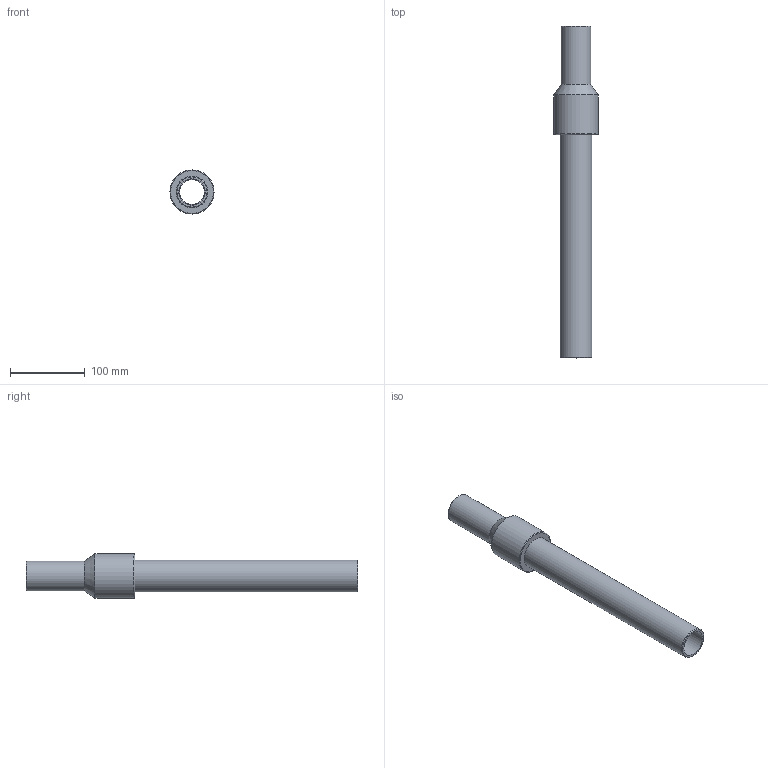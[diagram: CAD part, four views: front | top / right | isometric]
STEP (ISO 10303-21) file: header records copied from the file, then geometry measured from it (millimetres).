
FILE_DESCRIPTION(/* description */ ('Unknown'),/* implementation_level */ '2;1');
FILE_NAME(/* name */ 'RTSNP040C',/* time_stamp */ '2022-04-26T17:08:20+02:00',/* author */ ('Unknown'),/* organization */ ('Unknown'),/* preprocessor_version */ 'ST-DEVELOPER v18.1',/* originating_system */ 'Solid Edge',/* authorisation */ 'Unknown');
FILE_SCHEMA (('AUTOMOTIVE_DESIGN {1 0 10303 214 3 1 1}'));
Length unit declared in the file: millimetre
Products named in the file (3): RTSNP040C; Parte PE_; Partea ACCIAIO
Assembly tree (2 placements, depth 2):
  RTSNP040C
    Parte PE_
    Partea ACCIAIO
Bounding box: 59 x 443 x 59 mm (x, y, z)
Volume: 270955.9 mm3; surface area: 126621.2 mm2
Topology: 2 solids, 2 shells, 15 faces, 27 edges, 17 vertices
Faces by surface type: cylinder 6, plane 5, cone 2, torus 2
Full cylindrical faces by diameter (mm): 32.6 x1, 35.08 x1, 40 x1, 42.2 x2, 59 x1
Entity records: 388 total; most frequent: DIRECTION 66, CARTESIAN_POINT 48, AXIS2_PLACEMENT_3D 33, ORIENTED_EDGE 30, EDGE_LOOP 30, FACE_BOUND 30, EDGE_CURVE 15, VERTEX_POINT 15
